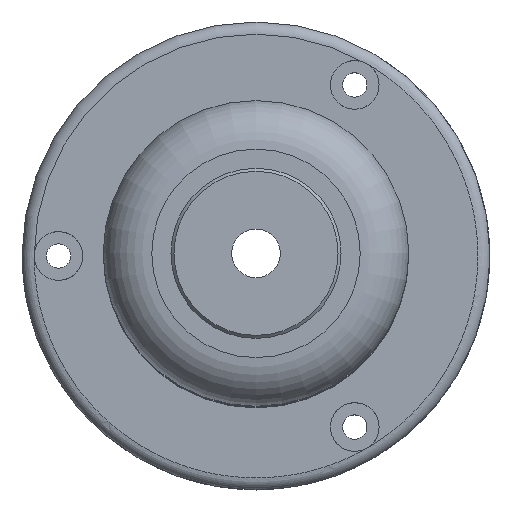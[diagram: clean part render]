
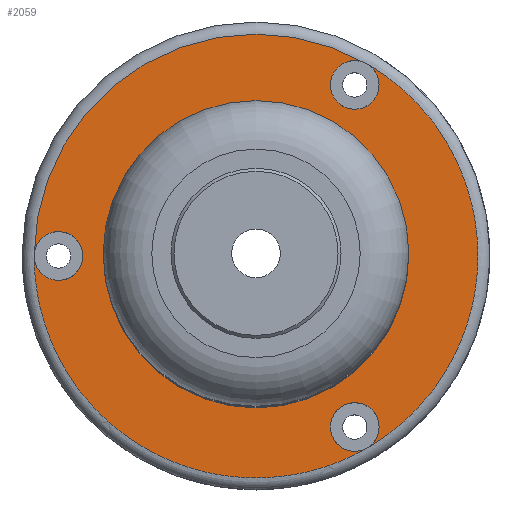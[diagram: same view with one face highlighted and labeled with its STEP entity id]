
A CAD part, top view. The second image highlights one B-rep face of the part: STEP entity #2059.
In plain terms, the highlighted planar face has unit normal (0, 0, -1).
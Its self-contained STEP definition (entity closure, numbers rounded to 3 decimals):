
#196=PLANE('',#26478);
#1608=FACE_BOUND('',#5096,.T.);
#1609=FACE_BOUND('',#5097,.T.);
#1610=FACE_BOUND('',#5098,.T.);
#1611=FACE_BOUND('',#5099,.T.);
#1612=FACE_BOUND('',#5100,.T.);
#2059=ADVANCED_FACE('',(#1608,#1609,#1610,#1611,#1612),#196,.T.);
#5096=EDGE_LOOP('',(#7897));
#5097=EDGE_LOOP('',(#7898));
#5098=EDGE_LOOP('',(#7899));
#5099=EDGE_LOOP('',(#7900));
#5100=EDGE_LOOP('',(#7901));
#7682=CIRCLE('',#26462,10.75);
#7690=CIRCLE('',#26474,2.);
#7691=CIRCLE('',#26475,2.);
#7692=CIRCLE('',#26476,2.);
#7693=CIRCLE('',#26477,38.);
#7897=ORIENTED_EDGE('',*,*,#17431,.T.);
#7898=ORIENTED_EDGE('',*,*,#17432,.T.);
#7899=ORIENTED_EDGE('',*,*,#17433,.T.);
#7900=ORIENTED_EDGE('',*,*,#17434,.T.);
#7901=ORIENTED_EDGE('',*,*,#17421,.F.);
#14994=VERTEX_POINT('',#38966);
#15004=VERTEX_POINT('',#39120);
#15005=VERTEX_POINT('',#39122);
#15006=VERTEX_POINT('',#39124);
#15007=VERTEX_POINT('',#39126);
#17421=EDGE_CURVE('',#14994,#14994,#7682,.T.);
#17431=EDGE_CURVE('',#15004,#15004,#7690,.T.);
#17432=EDGE_CURVE('',#15005,#15005,#7691,.T.);
#17433=EDGE_CURVE('',#15006,#15006,#7692,.T.);
#17434=EDGE_CURVE('',#15007,#15007,#7693,.T.);
#26462=AXIS2_PLACEMENT_3D('',#38965,#28095,#28096);
#26474=AXIS2_PLACEMENT_3D('',#39119,#28119,#28120);
#26475=AXIS2_PLACEMENT_3D('',#39121,#28121,#28122);
#26476=AXIS2_PLACEMENT_3D('',#39123,#28123,#28124);
#26477=AXIS2_PLACEMENT_3D('',#39125,#28125,#28126);
#26478=AXIS2_PLACEMENT_3D('',#39127,#28127,#28128);
#28095=DIRECTION('',(0.,0.,-1.));
#28096=DIRECTION('',(-1.,0.,0.));
#28119=DIRECTION('',(0.,0.,1.));
#28120=DIRECTION('',(1.,0.,0.));
#28121=DIRECTION('',(0.,0.,1.));
#28122=DIRECTION('',(1.,0.,0.));
#28123=DIRECTION('',(0.,0.,1.));
#28124=DIRECTION('',(1.,0.,0.));
#28125=DIRECTION('',(0.,0.,-1.));
#28126=DIRECTION('',(-1.,0.,0.));
#28127=DIRECTION('',(0.,0.,-1.));
#28128=DIRECTION('',(1.,0.,0.));
#38965=CARTESIAN_POINT('',(0.,-100.,-90.5));
#38966=CARTESIAN_POINT('',(-10.75,-100.,-90.5));
#39119=CARTESIAN_POINT('',(16.25,-71.854,-90.5));
#39120=CARTESIAN_POINT('',(18.25,-71.854,-90.5));
#39121=CARTESIAN_POINT('',(16.25,-128.146,-90.5));
#39122=CARTESIAN_POINT('',(18.25,-128.146,-90.5));
#39123=CARTESIAN_POINT('',(-32.5,-100.,-90.5));
#39124=CARTESIAN_POINT('',(-30.5,-100.,-90.5));
#39125=CARTESIAN_POINT('',(0.,-100.,-90.5));
#39126=CARTESIAN_POINT('',(-38.,-100.,-90.5));
#39127=CARTESIAN_POINT('',(0.,-100.,-90.5));
